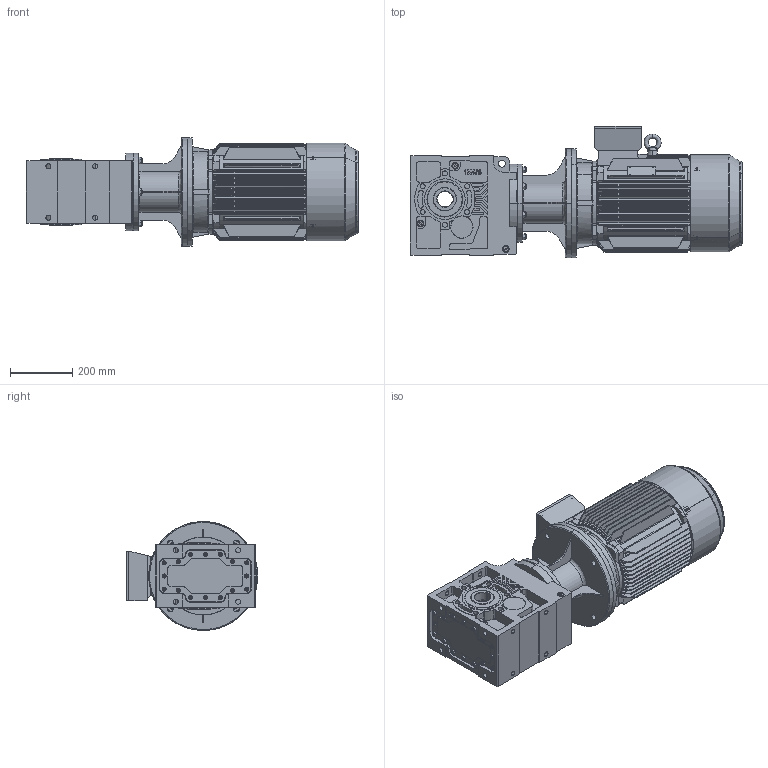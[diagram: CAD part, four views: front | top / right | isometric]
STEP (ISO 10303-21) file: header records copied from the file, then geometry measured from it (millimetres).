
FILE_DESCRIPTION (( 'STEP AP203' ), '1' );
FILE_NAME ('KV_473_0_M3-160L-4.STEP', '2019-07-18T12:11:50', ( '' ), ( '' ), 'SwSTEP 2.0', 'SolidWorks 2012', '' );
FILE_SCHEMA (( 'CONFIG_CONTROL_DESIGN' ));
Products named in the file (15): KV_473_0_M3-160L-4; Y2-160-2ª¥--®+_-++ñ; M3-160L-FF-B5; +¦i-MN2-160_-++ñ; Y2-160_shaft; Y2-160L+À+¿(B5)_-++ñ; Y2-160-4Ý¾6Ý¾8-ª+---®+_-++ñ; Eyebolts GB_GB_FASTENER_SCREWS_FRS M12N; +ª+§ªiY2-160ñ»ª­_-++ñ; KN_47_3_0_A-B16_B5_ML58A_0_0_0_0_0_0_0_0_0_0_0_0_M1; Y2-160-180ñ»ª­®+_-++ñ; Y2-160ñ»ª­+¿_-++ñ; ML58A_Varsayìlan; 43160B5_Varsayìlan; K473_Varsayìlan
Assembly tree (14 placements, depth 4):
  KV_473_0_M3-160L-4
    KN_47_3_0_A-B16_B5_ML58A_0_0_0_0_0_0_0_0_0_0_0_0_M1
      K473_Varsayìlan
      43160B5_Varsayìlan
      ML58A_Varsayìlan
    M3-160L-FF-B5
      +ª+§ªiY2-160ñ»ª­_-++ñ
        Y2-160-180ñ»ª­®+_-++ñ
        Y2-160ñ»ª­+¿_-++ñ
      Y2-160-4Ý¾6Ý¾8-ª+---®+_-++ñ
      Y2-160L+À+¿(B5)_-++ñ
      Eyebolts GB_GB_FASTENER_SCREWS_FRS M12N
      Y2-160-2ª¥--®+_-++ñ
      +¦i-MN2-160_-++ñ
      Y2-160_shaft
Bounding box: 1066 x 422 x 350 mm (x, y, z)
Volume: 30437895.3 mm3; surface area: 3707187.8 mm2
Topology: 11 solids, 11 shells, 2654 faces, 7015 edges, 4507 vertices
Faces by surface type: plane 1125, cylinder 966, cone 236, bspline 184, torus 103, sphere 40
Entity records: 124845 total; most frequent: CARTESIAN_POINT 59802, ORIENTED_EDGE 13874, DIRECTION 12170, EDGE_CURVE 6937, VERTEX_POINT 4492, AXIS2_PLACEMENT_3D 4349, LINE 3472, VECTOR 3472
